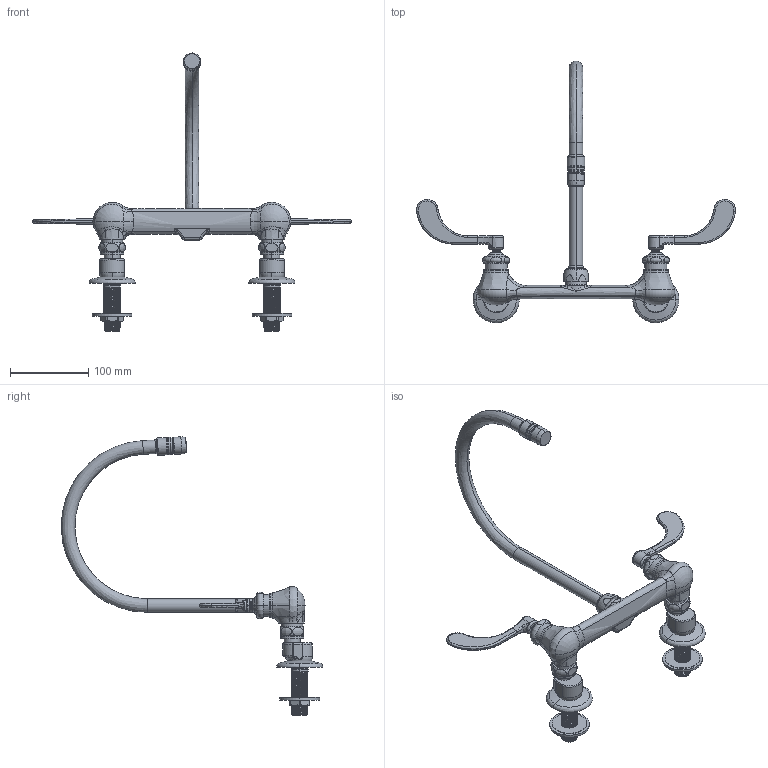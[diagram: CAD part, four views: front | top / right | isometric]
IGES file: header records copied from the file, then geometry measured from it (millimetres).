
Start section:  PTC IGES file: LWM5-C23-B.igs
Global section: file name: LWM5-C23-B.igs; native system: Creo Parametric by PTC Inc.; preprocessor: 2014500; author: usch_engrender; organization: Unknown; date: 20160211.125140; units: inch
Bounding box: 407.16 x 333.69 x 355.13 mm (x, y, z)
Surface area: 141696.2 mm2 (no closed solid volume)
Topology: 0 solids, 55 shells, 738 faces, 1941 edges, 1236 vertices
Faces by surface type: revolution 413, bspline 325
